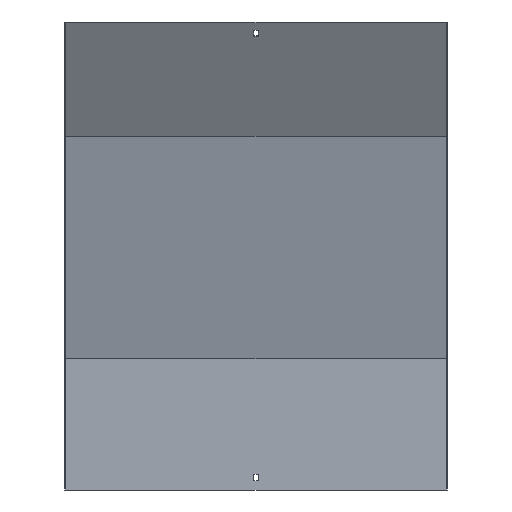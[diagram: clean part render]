
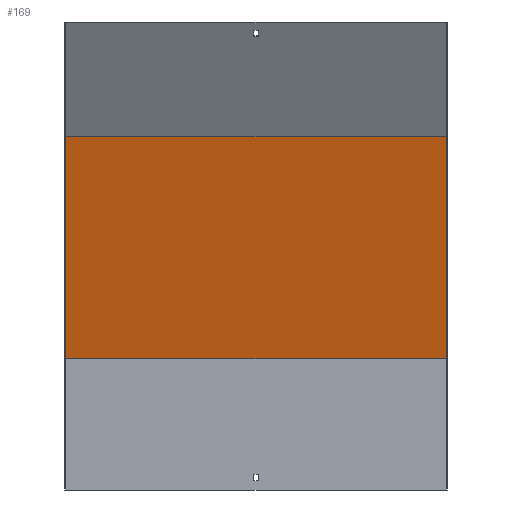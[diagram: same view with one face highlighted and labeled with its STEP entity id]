
A CAD part, front view. The second image highlights one B-rep face of the part: STEP entity #169.
In plain terms, the highlighted planar face has unit normal (0, -0.966, -0.259).
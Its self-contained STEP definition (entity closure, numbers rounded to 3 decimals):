
#38 = CARTESIAN_POINT ( 'NONE',  ( 250., 60.37, 16.176 ) ) ;
#44 = LINE ( 'NONE', #298, #548 ) ;
#62 = CARTESIAN_POINT ( 'NONE',  ( -250., -59.889, 464.987 ) ) ;
#72 = ORIENTED_EDGE ( 'NONE', *, *, #736, .F. ) ;
#99 = DIRECTION ( 'NONE',  ( 0., -0.259, 0.966 ) ) ;
#121 = CARTESIAN_POINT ( 'NONE',  ( 251.5, 17.87, 174.788 ) ) ;
#130 = ORIENTED_EDGE ( 'NONE', *, *, #773, .F. ) ;
#155 = LINE ( 'NONE', #412, #636 ) ;
#160 = DIRECTION ( 'NONE',  ( 0., -0.259, 0.966 ) ) ;
#169 = ADVANCED_FACE ( 'NONE', ( #841 ), #186, .T. ) ;
#186 = PLANE ( 'NONE',  #440 ) ;
#187 = DIRECTION ( 'NONE',  ( 0., -0.966, -0.259 ) ) ;
#229 = CARTESIAN_POINT ( 'NONE',  ( -250., 18.5, 172.436 ) ) ;
#265 = VERTEX_POINT ( 'NONE', #62 ) ;
#291 = ORIENTED_EDGE ( 'NONE', *, *, #750, .T. ) ;
#298 = CARTESIAN_POINT ( 'NONE',  ( 251.5, 18.5, 172.436 ) ) ;
#405 = EDGE_LOOP ( 'NONE', ( #130, #72, #715, #291 ) ) ;
#408 = DIRECTION ( 'NONE',  ( -1., 0., 0. ) ) ;
#412 = CARTESIAN_POINT ( 'NONE',  ( -250., 60.37, 16.176 ) ) ;
#440 = AXIS2_PLACEMENT_3D ( 'NONE', #121, #187, #458 ) ;
#458 = DIRECTION ( 'NONE',  ( 0., 0.259, -0.966 ) ) ;
#467 = CARTESIAN_POINT ( 'NONE',  ( 250., 18.5, 172.436 ) ) ;
#476 = LINE ( 'NONE', #681, #763 ) ;
#525 = VERTEX_POINT ( 'NONE', #467 ) ;
#543 = CARTESIAN_POINT ( 'NONE',  ( 250., -59.889, 464.987 ) ) ;
#548 = VECTOR ( 'NONE', #566, 1000. ) ;
#566 = DIRECTION ( 'NONE',  ( -1., 0., 0. ) ) ;
#636 = VECTOR ( 'NONE', #99, 1000. ) ;
#649 = EDGE_CURVE ( 'NONE', #525, #735, #664, .T. ) ;
#660 = VERTEX_POINT ( 'NONE', #229 ) ;
#664 = LINE ( 'NONE', #38, #818 ) ;
#681 = CARTESIAN_POINT ( 'NONE',  ( 251.5, -59.889, 464.987 ) ) ;
#715 = ORIENTED_EDGE ( 'NONE', *, *, #649, .T. ) ;
#735 = VERTEX_POINT ( 'NONE', #543 ) ;
#736 = EDGE_CURVE ( 'NONE', #525, #660, #44, .T. ) ;
#750 = EDGE_CURVE ( 'NONE', #735, #265, #476, .T. ) ;
#763 = VECTOR ( 'NONE', #408, 1000. ) ;
#773 = EDGE_CURVE ( 'NONE', #660, #265, #155, .T. ) ;
#818 = VECTOR ( 'NONE', #160, 1000. ) ;
#841 = FACE_OUTER_BOUND ( 'NONE', #405, .T. ) ;
